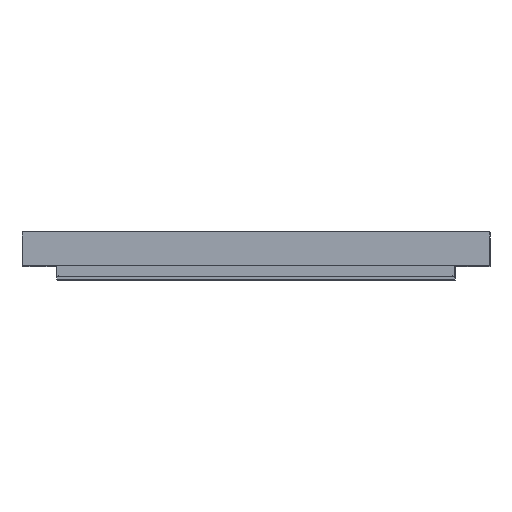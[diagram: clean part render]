
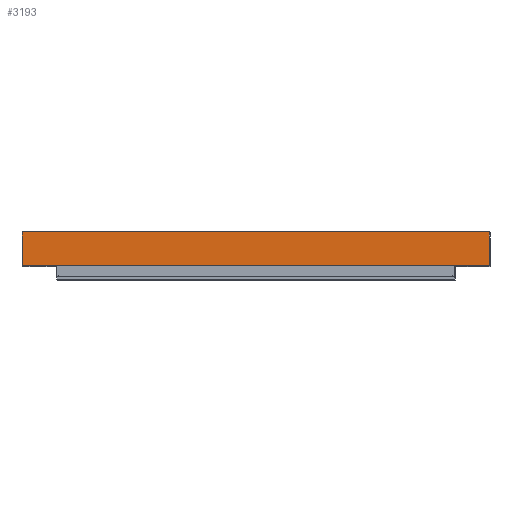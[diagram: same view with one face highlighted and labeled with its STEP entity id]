
A CAD part, left-side view. The second image highlights one B-rep face of the part: STEP entity #3193.
In plain terms, the highlighted planar face has unit normal (-1, 0, 0).
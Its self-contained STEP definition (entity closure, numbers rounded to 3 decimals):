
#222 = CARTESIAN_POINT ( 'NONE',  ( -159.388, 297.5, 535. ) ) ;
#297 = VECTOR ( 'NONE', #666, 1000. ) ;
#481 = ORIENTED_EDGE ( 'NONE', *, *, #3859, .F. ) ;
#666 = DIRECTION ( 'NONE',  ( 0., 0., -1. ) ) ;
#791 = EDGE_LOOP ( 'NONE', ( #2855, #481, #1961, #3900 ) ) ;
#814 = CARTESIAN_POINT ( 'NONE',  ( -159.388, -297.5, 492. ) ) ;
#955 = EDGE_CURVE ( 'NONE', #5145, #4929, #3621, .T. ) ;
#1100 = CARTESIAN_POINT ( 'NONE',  ( -159.388, 297.5, 513.5 ) ) ;
#1198 = CARTESIAN_POINT ( 'NONE',  ( -159.388, 0., 535. ) ) ;
#1673 = VECTOR ( 'NONE', #4954, 1000. ) ;
#1961 = ORIENTED_EDGE ( 'NONE', *, *, #4362, .F. ) ;
#2060 = LINE ( 'NONE', #3709, #1673 ) ;
#2266 = VERTEX_POINT ( 'NONE', #3869 ) ;
#2434 = CARTESIAN_POINT ( 'NONE',  ( -159.388, -297.5, 535. ) ) ;
#2480 = CARTESIAN_POINT ( 'NONE',  ( -159.388, 0., 513.5 ) ) ;
#2504 = PLANE ( 'NONE',  #2874 ) ;
#2587 = VERTEX_POINT ( 'NONE', #814 ) ;
#2743 = LINE ( 'NONE', #3532, #297 ) ;
#2840 = DIRECTION ( 'NONE',  ( 0., -1., 0. ) ) ;
#2855 = ORIENTED_EDGE ( 'NONE', *, *, #4389, .F. ) ;
#2874 = AXIS2_PLACEMENT_3D ( 'NONE', #2480, #4939, #2889 ) ;
#2889 = DIRECTION ( 'NONE',  ( 0., 1., 0. ) ) ;
#3193 = ADVANCED_FACE ( 'NONE', ( #4211 ), #2504, .T. ) ;
#3532 = CARTESIAN_POINT ( 'NONE',  ( -159.388, -297.5, 513.5 ) ) ;
#3607 = DIRECTION ( 'NONE',  ( 0., 0., 1. ) ) ;
#3621 = LINE ( 'NONE', #1198, #3985 ) ;
#3709 = CARTESIAN_POINT ( 'NONE',  ( -159.388, 0., 492. ) ) ;
#3859 = EDGE_CURVE ( 'NONE', #2587, #2266, #2060, .T. ) ;
#3869 = CARTESIAN_POINT ( 'NONE',  ( -159.388, 297.5, 492. ) ) ;
#3900 = ORIENTED_EDGE ( 'NONE', *, *, #955, .F. ) ;
#3985 = VECTOR ( 'NONE', #2840, 1000. ) ;
#4211 = FACE_OUTER_BOUND ( 'NONE', #791, .T. ) ;
#4362 = EDGE_CURVE ( 'NONE', #4929, #2587, #2743, .T. ) ;
#4389 = EDGE_CURVE ( 'NONE', #2266, #5145, #4416, .T. ) ;
#4416 = LINE ( 'NONE', #1100, #5216 ) ;
#4929 = VERTEX_POINT ( 'NONE', #2434 ) ;
#4939 = DIRECTION ( 'NONE',  ( -1., 0., 0. ) ) ;
#4954 = DIRECTION ( 'NONE',  ( 0., 1., 0. ) ) ;
#5145 = VERTEX_POINT ( 'NONE', #222 ) ;
#5216 = VECTOR ( 'NONE', #3607, 1000. ) ;
